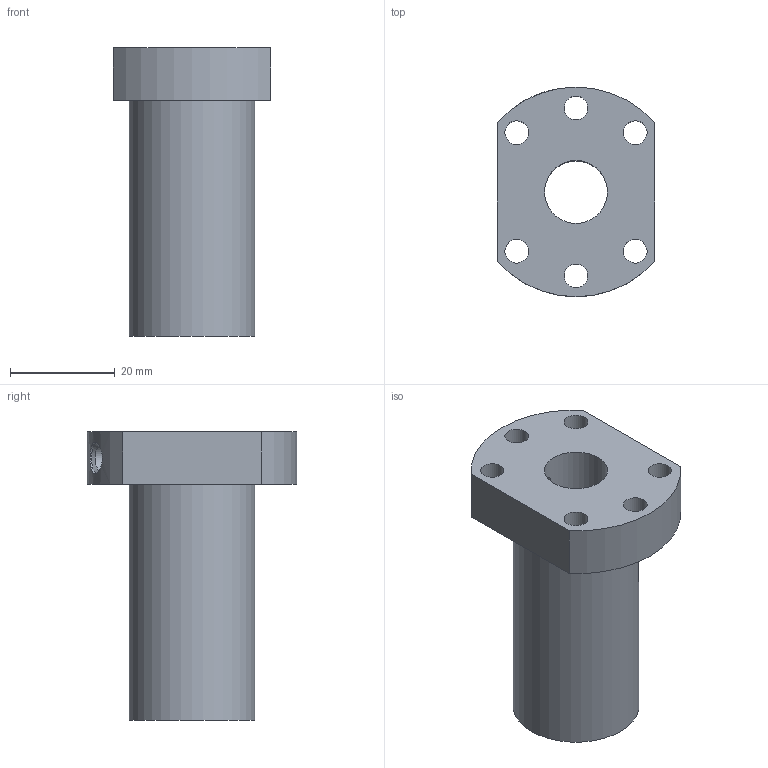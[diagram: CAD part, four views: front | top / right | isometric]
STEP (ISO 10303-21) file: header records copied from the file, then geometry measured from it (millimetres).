
FILE_DESCRIPTION(('FreeCAD Model'),'2;1');
FILE_NAME('Open CASCADE Shape Model','2025-04-29T10:54:34',('Author'),( ''),'Open CASCADE STEP processor 7.5','FreeCAD','Unknown');
FILE_SCHEMA(('AUTOMOTIVE_DESIGN { 1 0 10303 214 1 1 1 1 }'));
Length unit declared in the file: millimetre
Products named in the file (1): agr12102_5--240sfsd2_545l--_1
Bounding box: 30 x 40 x 55 mm (x, y, z)
Volume: 23734 mm3; surface area: 9426.5 mm2
Topology: 1 solids, 1 shells, 23 faces, 55 edges, 36 vertices
Faces by surface type: cylinder 14, plane 6, cone 3
Full cylindrical faces by diameter (mm): 3 x1, 4.5 x6, 4.918 x2, 6 x1, 12 x1, 24 x1
Entity records: 1968 total; most frequent: CARTESIAN_POINT 811, DIRECTION 216, ORIENTED_EDGE 110, PCURVE 110, DEFINITIONAL_REPRESENTATION 110, LINE 103, VECTOR 103, EDGE_CURVE 55
